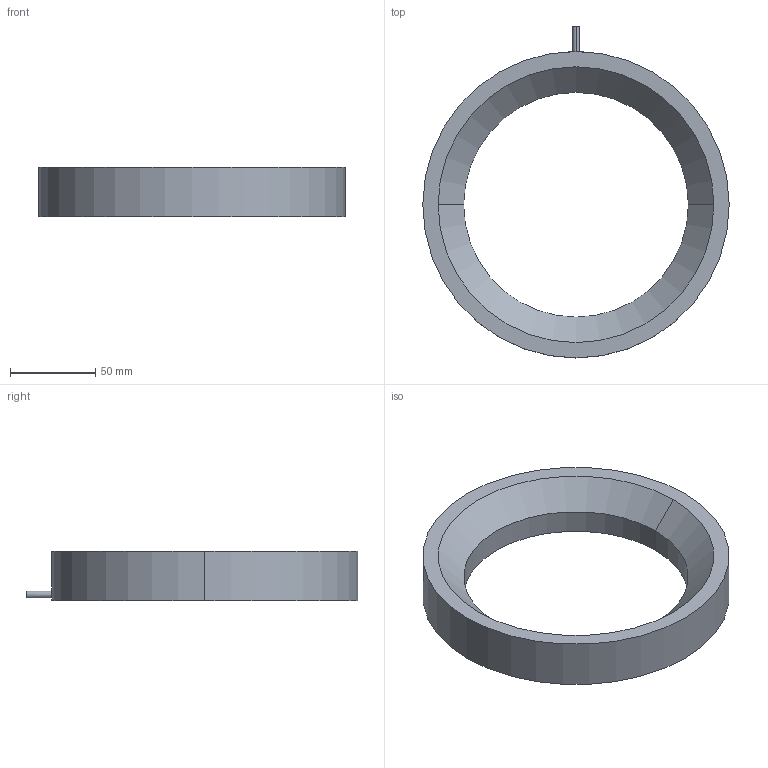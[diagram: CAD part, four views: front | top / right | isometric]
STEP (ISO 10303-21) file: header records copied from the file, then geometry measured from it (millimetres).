
FILE_DESCRIPTION (( 'STEP AP203' ), '1' );
FILE_NAME ('CRT-RL18030-¼òÒ×3DÍ¼.STEP', '2021-12-21T08:28:50', ( 'Admin' ), ( '' ), 'SwSTEP 2.0', 'SolidWorks 2018', '' );
FILE_SCHEMA (( 'CONFIG_CONTROL_DESIGN' ));
Length unit declared in the file: millimetre
Products named in the file (1): CRT-RL18030-潠眢3D芞
Bounding box: 180 x 195 x 29 mm (x, y, z)
Volume: 290989.9 mm3; surface area: 48958.4 mm2
Topology: 1 solids, 1 shells, 35 faces, 78 edges, 42 vertices
Faces by surface type: cone 18, cylinder 14, plane 3
Entity records: 1041 total; most frequent: CARTESIAN_POINT 204, DIRECTION 176, ORIENTED_EDGE 140, AXIS2_PLACEMENT_3D 72, EDGE_CURVE 70, EDGE_LOOP 42, VERTEX_POINT 42, CIRCLE 36
